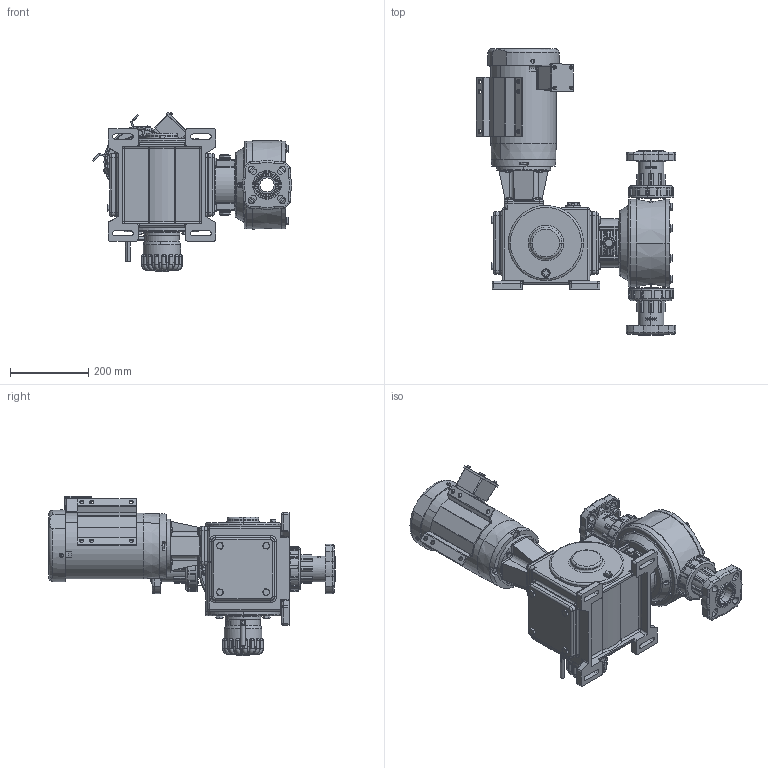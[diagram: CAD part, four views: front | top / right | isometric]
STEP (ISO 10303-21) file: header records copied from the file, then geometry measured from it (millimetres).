
FILE_DESCRIPTION (( 'STEP AP203' ), '1' );
FILE_NAME ('DM7J3FH.STEP', '2025-03-20T19:17:52', ( '' ), ( '' ), 'SwSTEP 2.0', 'SolidWorks 2023', '' );
FILE_SCHEMA (( 'CONFIG_CONTROL_DESIGN' ));
Length unit declared in the file: inch
Products named in the file (1): DM7J3FH
Bounding box: 510.88 x 733.09 x 408.65 mm (x, y, z)
Surface area: 1248341.8 mm2 (no closed solid volume)
Topology: 0 solids, 191 shells, 2717 faces, 11419 edges, 8624 vertices
Faces by surface type: plane 1003, cylinder 888, cone 283, torus 263, bspline 231, sphere 49
Entity records: 149183 total; most frequent: CARTESIAN_POINT 61054, DIRECTION 16928, ORIENTED_EDGE 16551, EDGE_CURVE 11316, VERTEX_POINT 8624, VECTOR 5790, LINE 5790, AXIS2_PLACEMENT_3D 5569
